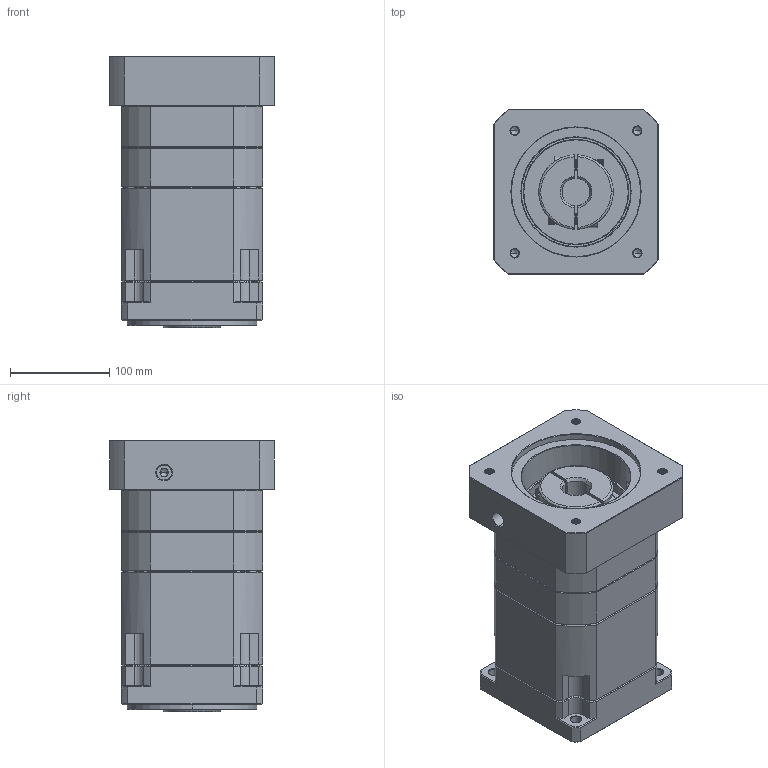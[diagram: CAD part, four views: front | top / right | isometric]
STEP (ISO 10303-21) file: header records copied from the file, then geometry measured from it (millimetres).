
FILE_DESCRIPTION (( 'STEP AP214' ), '1' );
FILE_NAME ('ZB142A-K35-L3-P2-28-130-174-M10.step', '2023-09-01T11:48:19', ( '' ), ( '' ), 'SwSTEP 2.0', 'SolidWorks 2016', '' );
FILE_SCHEMA (( 'AUTOMOTIVE_DESIGN' ));
Length unit declared in the file: millimetre
Products named in the file (1): ZB142A-K35-L3-P2-28-130-174-M10
Bounding box: 166 x 166 x 273.2 mm (x, y, z)
Volume: 4932298.5 mm3; surface area: 339635.5 mm2
Topology: 6 solids, 6 shells, 2285 faces, 6118 edges, 3936 vertices
Faces by surface type: plane 1108, bspline 404, cylinder 399, cone 354, torus 20
Entity records: 123769 total; most frequent: CARTESIAN_POINT 44649, ORIENTED_EDGE 12180, DIRECTION 9701, EDGE_CURVE 6090, VERTEX_POINT 3936, LINE 3867, VECTOR 3867, AXIS2_PLACEMENT_3D 2917
